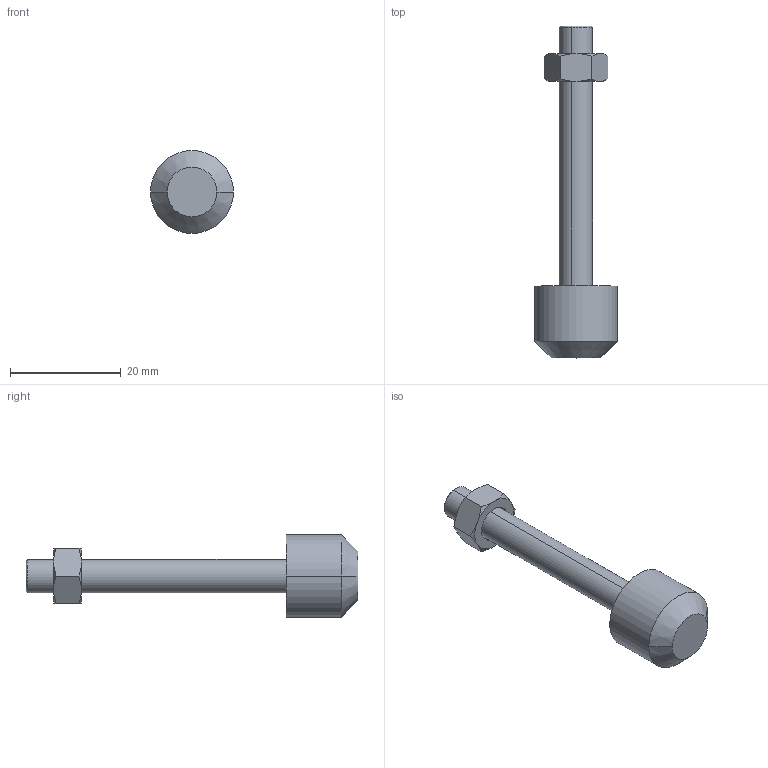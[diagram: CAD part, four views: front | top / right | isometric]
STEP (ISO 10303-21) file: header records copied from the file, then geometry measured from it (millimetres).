
FILE_DESCRIPTION (( 'STEP AP203' ), '1' );
FILE_NAME ('PB-M6.STEP', '2011-05-23T14:09:10', ( 'Usuario' ), ( '' ), 'SwSTEP 2.0', 'SolidWorks 2011', '' );
FILE_SCHEMA (( 'CONFIG_CONTROL_DESIGN' ));
Length unit declared in the file: millimetre
Products named in the file (4): 20.20013; 20.20009; PB-M6; 11.50001
Assembly tree (3 placements, depth 2):
  PB-M6
    20.20009
    11.50001
    20.20013
Bounding box: 15 x 60 x 15 mm (x, y, z)
Volume: 3684.1 mm3; surface area: 2360.2 mm2
Topology: 3 solids, 3 shells, 44 faces, 90 edges, 51 vertices
Faces by surface type: cone 24, plane 12, cylinder 8
Entity records: 1616 total; most frequent: CARTESIAN_POINT 309, DIRECTION 202, ORIENTED_EDGE 176, EDGE_CURVE 88, AXIS2_PLACEMENT_3D 88, VERTEX_POINT 51, EDGE_LOOP 47, FACE_OUTER_BOUND 44
